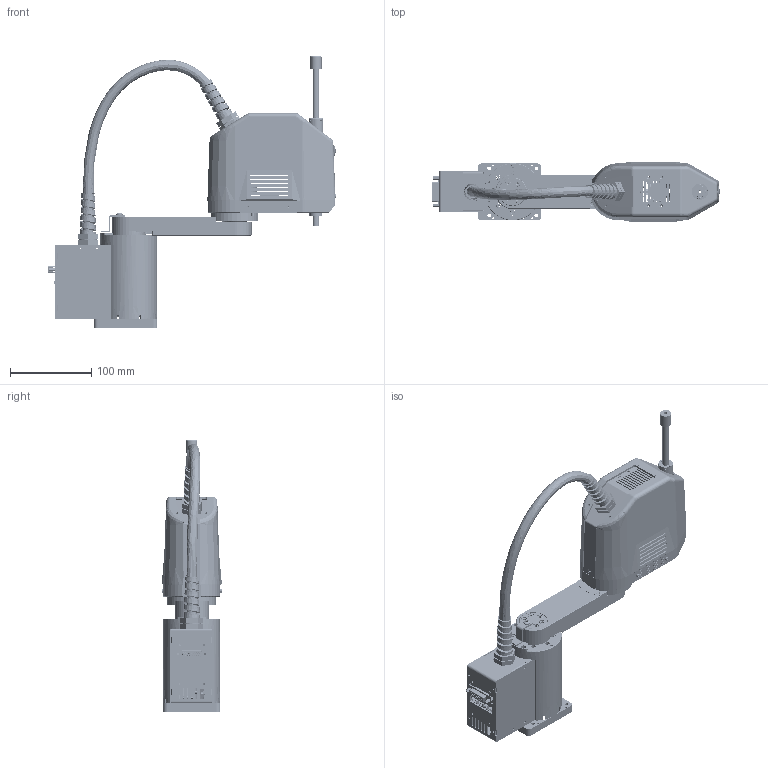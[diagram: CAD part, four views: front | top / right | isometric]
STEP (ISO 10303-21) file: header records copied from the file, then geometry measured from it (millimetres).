
FILE_DESCRIPTION (( 'STEP AP214' ), '1' );
FILE_NAME ('雷赛电机款机械臂本体.STEP', '2026-03-09T09:50:53', ( 'Windows User' ), ( 'P R C' ), 'SwSTEP 2.0', 'SolidWorks 2023', '' );
FILE_SCHEMA (( 'AUTOMOTIVE_DESIGN' ));
Length unit declared in the file: millimetre
Products named in the file (15): SC230加厚大臂JH-SC-002-B3; SC感应片轴1; pan head cross recess screw_iso_ISO 7045 - M4 x 30 - Z - 30N; SC感应片右; 减速机锁紧压块; SC感应片左; socket head cap screw_iso1_ISO 4762 M4 x 16 - 16N; 轴0外加原点感应片JH-SC-B041; 雷赛电机款机械臂本体; BB200头罩F带扇热孔-改风格B1QW-H; socket head cap screw_iso1_ISO 4762 M4 x 20 - 20N; 雷塞LD款底座; countersunk flat head crodsfss recess screw_iso_ISO 7046-1 - M2 x 3 - Z - 3N; 新款机械臂大臂组; 机械臂头部
Assembly tree (26 placements, depth 3):
  雷赛电机款机械臂本体
    雷塞LD款底座
    机械臂头部
    新款机械臂大臂组
      SC230加厚大臂JH-SC-002-B3
      减速机锁紧压块  x2
      socket head cap screw_iso1_ISO 4762 M4 x 16 - 16N  x6
      socket head cap screw_iso1_ISO 4762 M4 x 20 - 20N  x6
      SC感应片左
      SC感应片轴1
      SC感应片右
      轴0外加原点感应片JH-SC-B041
      pan head cross recess screw_iso_ISO 7045 - M4 x 30 - Z - 30N
      countersunk flat head crodsfss recess screw_iso_ISO 7046-1 - M2 x 3 - Z - 3N  x2
    BB200头罩F带扇热孔-改风格B1QW-H
Bounding box: 354.1 x 74.37 x 333.05 mm (x, y, z)
Volume: 243368.3 mm3; surface area: 327994.4 mm2
Topology: 23 solids, 180 shells, 2999 faces, 11606 edges, 8703 vertices
Faces by surface type: cylinder 1388, plane 1135, cone 264, torus 120, bspline 70, sphere 22
Entity records: 126850 total; most frequent: CARTESIAN_POINT 37546, DIRECTION 18414, ORIENTED_EDGE 16078, EDGE_CURVE 10791, VERTEX_POINT 8257, AXIS2_PLACEMENT_3D 6665, VECTOR 5084, LINE 5084
